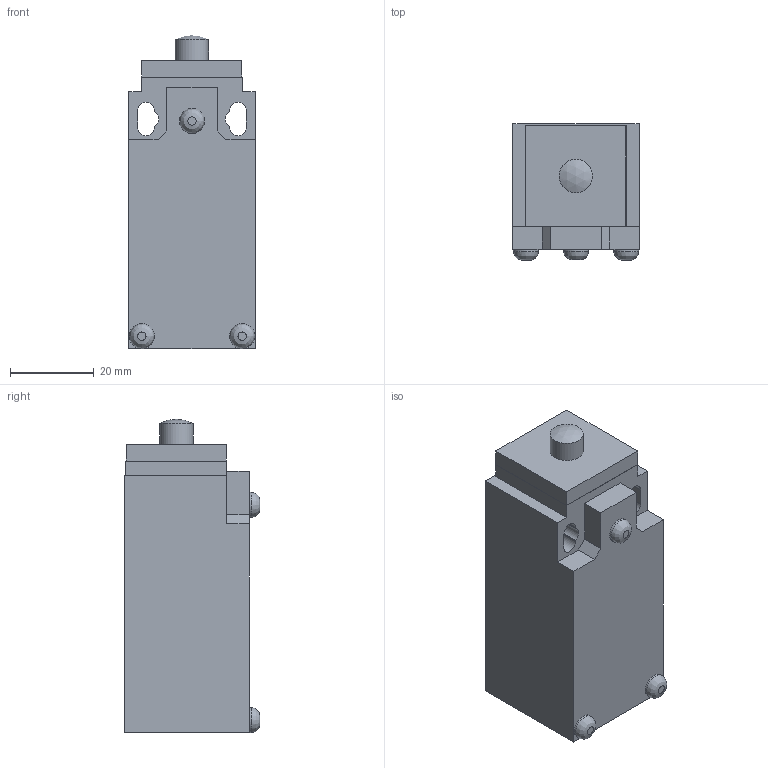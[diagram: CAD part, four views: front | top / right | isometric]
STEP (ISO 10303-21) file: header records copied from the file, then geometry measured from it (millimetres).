
FILE_DESCRIPTION((''),'2;1');
FILE_NAME('C:\Workarea\Disegni\Comepi\Catalogo\Stp\Finecorsa\AM1-F11.iam.step','2011-07-22T16:14:26',(''),(''),'Autodesk Inventor 2012','Autodesk Inventor 2012','');
FILE_SCHEMA(('AUTOMOTIVE_DESIGN { 1 0 10303 214 1 1 1 1 }'));
Length unit declared in the file: millimetre
Products named in the file (5): AM1-F11; AM1; T10; T10_1; T10_2
Assembly tree (4 placements, depth 3):
  AM1-F11
    AM1
    T10
      T10_1
      T10_2
Bounding box: 30.3 x 32.5 x 75 mm (x, y, z)
Volume: 53322.1 mm3; surface area: 13240.7 mm2
Topology: 3 solids, 3 shells, 55 faces, 134 edges, 87 vertices
Faces by surface type: plane 39, cylinder 12, bspline 3, sphere 1
Full cylindrical faces by diameter (mm): 6 x3, 8 x2, 20.4 x1
Entity records: 1832 total; most frequent: CARTESIAN_POINT 404, DIRECTION 272, ORIENTED_EDGE 246, EDGE_CURVE 123, VECTOR 96, LINE 96, AXIS2_PLACEMENT_3D 88, VERTEX_POINT 85
